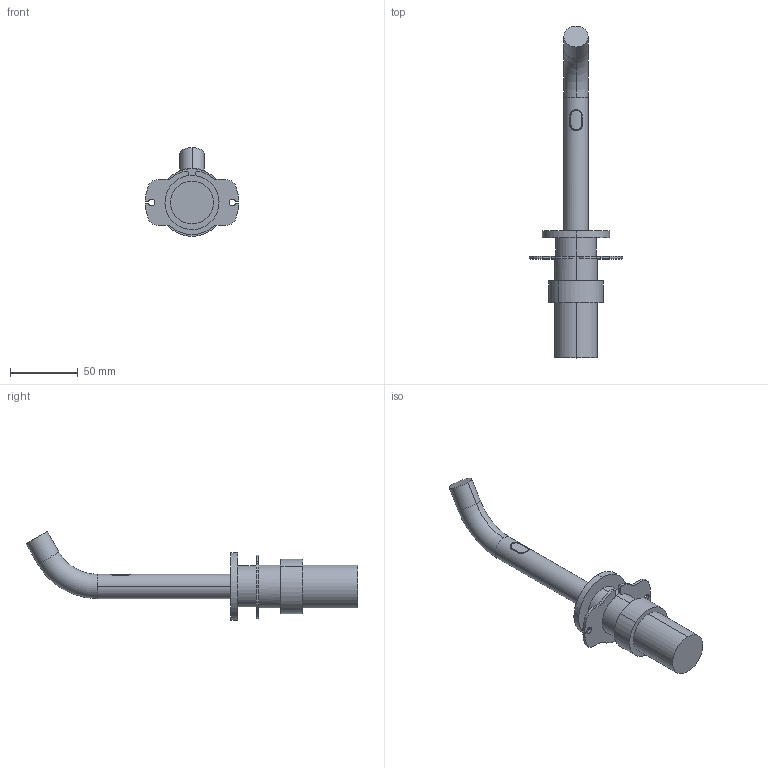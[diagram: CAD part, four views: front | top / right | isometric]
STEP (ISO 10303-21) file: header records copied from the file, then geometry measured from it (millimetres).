
FILE_DESCRIPTION (( 'STEP AP214' ), '1' );
FILE_NAME ('TSL.895 2.STEP', '2025-06-26T08:21:37', ( '' ), ( '' ), 'SwSTEP 2.0', 'SolidWorks 2022', '' );
FILE_SCHEMA (( 'AUTOMOTIVE_DESIGN' ));
Length unit declared in the file: millimetre
Products named in the file (1): TSL.895 2
Bounding box: 68.97 x 245.29 x 65.5 mm (x, y, z)
Volume: 130477.8 mm3; surface area: 27963.4 mm2
Topology: 1 solids, 1 shells, 94 faces, 245 edges, 160 vertices
Faces by surface type: cylinder 64, plane 24, bspline 4, torus 2
Entity records: 5502 total; most frequent: CARTESIAN_POINT 2120, DIRECTION 523, ORIENTED_EDGE 490, EDGE_CURVE 245, AXIS2_PLACEMENT_3D 209, VERTEX_POINT 160, CIRCLE 118, LINE 105
